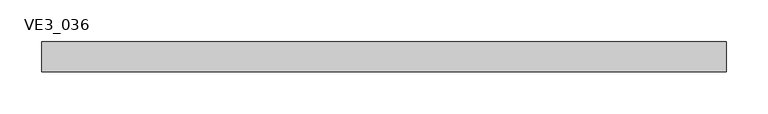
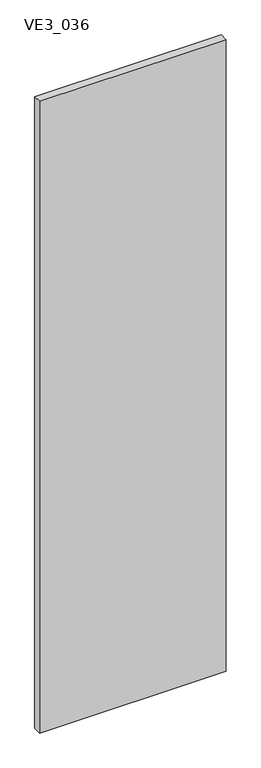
"""IFC4 building model written with IfcOpenShell, lengths in millimetres: plate geometry, TRP_CP_ARC_PF_RE_SE : VE3_036."""

from ifc_helpers import new_model, si_unit, frame, origin, place, context, project, spatial, polyline, outline, extrude, source, transform, mapped, element, save


def ve3_036_5b222622(model_context):
    return source(origin(), model_context, "Body", "SweptSolid", [
        extrude(outline(polyline([(410.0, 18.0), (410.0, -18.0), (-410.0, -18.0), (-410.0, 18.0), (410.0, 18.0)])), frame((0.0, 0.0, -3.1739529), z_axis=(0.0, 0.0, 1.0), x_axis=(1.0, 0.0, 0.0)), (0.0, 0.0, 1.0), 2933.1739529),
    ])


if __name__ == "__main__":
    model = new_model("IFC4")
    model_context = context("Model", 3, world=origin())
    ifc_project = project(units=[si_unit("LENGTHUNIT", "METRE", prefix="MILLI")], contexts=[model_context])
    site = spatial("IfcSite", under=ifc_project)
    building = spatial("IfcBuilding", under=site)
    placement = place(None, origin())
    ve3_036_shape = ve3_036_5b222622(model_context)
    element("IfcPlate", 1, ObjectType="TRP_CP_ARC_PF_RE_SE : VE3_036", at=placement, inside=building, context=model_context, shape_type="MappedRepresentation", body=[
        mapped(ve3_036_shape, transform((0.0, 0.0, 0.0), x_axis=(1.0, 0.0, 0.0), y_axis=(0.0, 1.0, 0.0), z_axis=(0.0, 0.0, 1.0))),
    ])
    save(model, "model.ifc")
